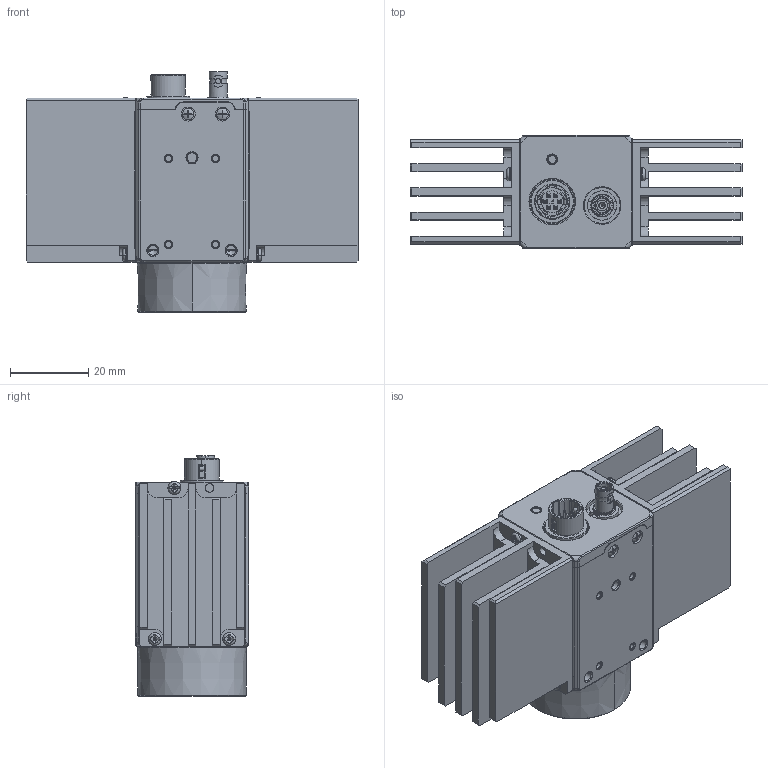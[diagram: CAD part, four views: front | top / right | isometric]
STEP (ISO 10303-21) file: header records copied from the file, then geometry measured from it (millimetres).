
FILE_DESCRIPTION((''),'2;1');
FILE_NAME('MV-CH120-90YMC-0001_ASM','2024-09-12T19:33:12',('gengdawei'),(''),'CREO PARAMETRIC BY PTC INC, 2020044','CREO PARAMETRIC BY PTC INC, 2020044','');
FILE_SCHEMA(('CONFIG_CONTROL_DESIGN'));
Products named in the file (12): ASM0010_ASM_1_1; ASM0010_ASM_1_2; ASM0010_ASM_1_3; ASM0010_ASM_1_4; ASM0010_ASM_1_5; ASM0010_ASM_1_ASM; DE-14-029728B_4; 10001_ASM_12_ASM; SC-PM2X4_5NL-B_1; 00-MV-CH120-90YMC_ASM_213_ASM; 002_ASM; MV-CH120-90YMC-0001_ASM
Assembly tree (17 placements, depth 5):
  MV-CH120-90YMC-0001_ASM
    ASM0010_ASM_1_ASM
      ASM0010_ASM_1_1
      ASM0010_ASM_1_2
      ASM0010_ASM_1_3
      ASM0010_ASM_1_4
      ASM0010_ASM_1_5
    002_ASM
      00-MV-CH120-90YMC_ASM_213_ASM
        10001_ASM_12_ASM  x2
          DE-14-029728B_4
        SC-PM2X4_5NL-B_1  x6
Bounding box: 85 x 29 x 61.62 mm (x, y, z)
Volume: 33426.2 mm3; surface area: 49454.7 mm2
Topology: 13 solids, 69 shells, 2884 faces, 8369 edges, 5555 vertices
Faces by surface type: plane 1396, cylinder 926, bspline 233, cone 174, torus 144, sphere 11
Entity records: 121330 total; most frequent: CARTESIAN_POINT 56191, ORIENTED_EDGE 14467, DIRECTION 12417, EDGE_CURVE 7348, VERTEX_POINT 4886, AXIS2_PLACEMENT_3D 4391, VECTOR 3635, LINE 3635
